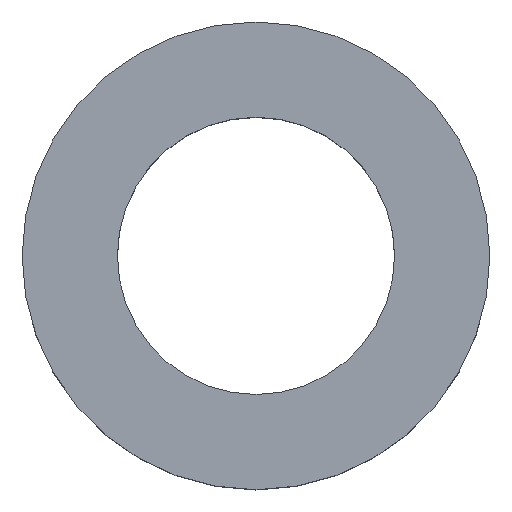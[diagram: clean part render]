
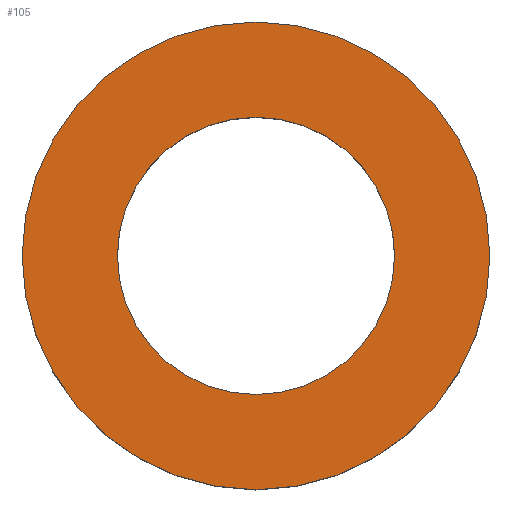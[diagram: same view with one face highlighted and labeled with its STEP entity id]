
A CAD part, top view. The second image highlights one B-rep face of the part: STEP entity #105.
In plain terms, the highlighted planar face has unit normal (0, 0, 1).
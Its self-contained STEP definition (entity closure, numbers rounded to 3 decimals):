
#21 = EDGE_CURVE('',#22,#22,#24,.T.);
#22 = VERTEX_POINT('',#23);
#23 = CARTESIAN_POINT('',(2.7,0.,1.7));
#24 = SURFACE_CURVE('',#25,(#30,#42),.PCURVE_S1.);
#25 = CIRCLE('',#26,2.7);
#26 = AXIS2_PLACEMENT_3D('',#27,#28,#29);
#27 = CARTESIAN_POINT('',(0.,0.,1.7));
#28 = DIRECTION('',(0.,0.,1.));
#29 = DIRECTION('',(1.,0.,-0.));
#30 = PCURVE('',#31,#36);
#31 = CYLINDRICAL_SURFACE('',#32,2.7);
#32 = AXIS2_PLACEMENT_3D('',#33,#34,#35);
#33 = CARTESIAN_POINT('',(0.,0.,0.));
#34 = DIRECTION('',(0.,0.,1.));
#35 = DIRECTION('',(1.,0.,-0.));
#36 = DEFINITIONAL_REPRESENTATION('',(#37),#41);
#37 = LINE('',#38,#39);
#38 = CARTESIAN_POINT('',(0.,1.7));
#39 = VECTOR('',#40,1.);
#40 = DIRECTION('',(1.,0.));
#41 = ( GEOMETRIC_REPRESENTATION_CONTEXT(2) 
PARAMETRIC_REPRESENTATION_CONTEXT() REPRESENTATION_CONTEXT('2D SPACE',''
  ) );
#42 = PCURVE('',#43,#48);
#43 = PLANE('',#44);
#44 = AXIS2_PLACEMENT_3D('',#45,#46,#47);
#45 = CARTESIAN_POINT('',(0.,0.,1.7));
#46 = DIRECTION('',(0.,0.,1.));
#47 = DIRECTION('',(1.,0.,-0.));
#48 = DEFINITIONAL_REPRESENTATION('',(#49),#53);
#49 = CIRCLE('',#50,2.7);
#50 = AXIS2_PLACEMENT_2D('',#51,#52);
#51 = CARTESIAN_POINT('',(0.,0.));
#52 = DIRECTION('',(1.,0.));
#53 = ( GEOMETRIC_REPRESENTATION_CONTEXT(2) 
PARAMETRIC_REPRESENTATION_CONTEXT() REPRESENTATION_CONTEXT('2D SPACE',''
  ) );
#105 = ADVANCED_FACE('',(#106,#109),#43,.T.);
#106 = FACE_BOUND('',#107,.T.);
#107 = EDGE_LOOP('',(#108));
#108 = ORIENTED_EDGE('',*,*,#21,.T.);
#109 = FACE_BOUND('',#110,.T.);
#110 = EDGE_LOOP('',(#111));
#111 = ORIENTED_EDGE('',*,*,#112,.F.);
#112 = EDGE_CURVE('',#113,#113,#115,.T.);
#113 = VERTEX_POINT('',#114);
#114 = CARTESIAN_POINT('',(1.6,0.,1.7));
#115 = SURFACE_CURVE('',#116,(#121,#128),.PCURVE_S1.);
#116 = CIRCLE('',#117,1.6);
#117 = AXIS2_PLACEMENT_3D('',#118,#119,#120);
#118 = CARTESIAN_POINT('',(0.,0.,1.7));
#119 = DIRECTION('',(0.,0.,1.));
#120 = DIRECTION('',(1.,0.,-0.));
#121 = PCURVE('',#43,#122);
#122 = DEFINITIONAL_REPRESENTATION('',(#123),#127);
#123 = CIRCLE('',#124,1.6);
#124 = AXIS2_PLACEMENT_2D('',#125,#126);
#125 = CARTESIAN_POINT('',(0.,0.));
#126 = DIRECTION('',(1.,0.));
#127 = ( GEOMETRIC_REPRESENTATION_CONTEXT(2) 
PARAMETRIC_REPRESENTATION_CONTEXT() REPRESENTATION_CONTEXT('2D SPACE',''
  ) );
#128 = PCURVE('',#129,#134);
#129 = CYLINDRICAL_SURFACE('',#130,1.6);
#130 = AXIS2_PLACEMENT_3D('',#131,#132,#133);
#131 = CARTESIAN_POINT('',(0.,0.,-1.));
#132 = DIRECTION('',(0.,0.,1.));
#133 = DIRECTION('',(1.,0.,-0.));
#134 = DEFINITIONAL_REPRESENTATION('',(#135),#139);
#135 = LINE('',#136,#137);
#136 = CARTESIAN_POINT('',(0.,2.7));
#137 = VECTOR('',#138,1.);
#138 = DIRECTION('',(1.,0.));
#139 = ( GEOMETRIC_REPRESENTATION_CONTEXT(2) 
PARAMETRIC_REPRESENTATION_CONTEXT() REPRESENTATION_CONTEXT('2D SPACE',''
  ) );
